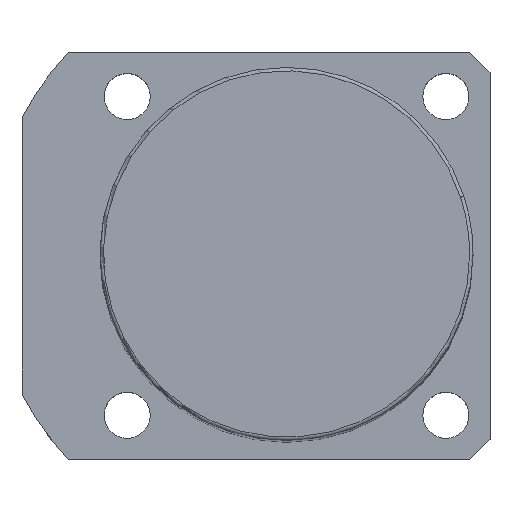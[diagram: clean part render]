
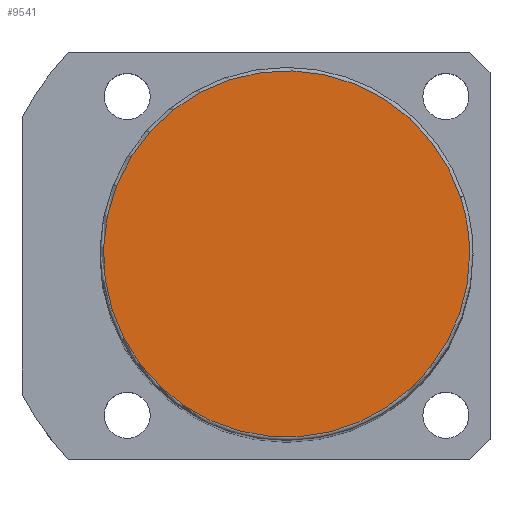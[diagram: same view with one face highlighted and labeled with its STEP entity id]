
A CAD part, top view. The second image highlights one B-rep face of the part: STEP entity #9541.
In plain terms, the highlighted planar face has unit normal (0, 0, 1).
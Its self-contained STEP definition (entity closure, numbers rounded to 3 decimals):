
#9507=CARTESIAN_POINT('',(27.0,0.0,176.0));
#9508=VERTEX_POINT('',#9507);
#9509=CARTESIAN_POINT('',(25.679,8.343,176.0));
#9510=VERTEX_POINT('',#9509);
#9511=CARTESIAN_POINT('',(0.0,0.0,176.0));
#9512=DIRECTION('',(0.0,0.0,1.0));
#9513=DIRECTION('',(1.0,0.0,0.0));
#9514=AXIS2_PLACEMENT_3D('',#9511,#9512,#9513);
#9515=CIRCLE('',#9514,27.0);
#9516=EDGE_CURVE('no 4494',#9508,#9510,#9515,.T.);
#9517=ORIENTED_EDGE('',*,*,#9516,.T.);
#9518=CARTESIAN_POINT('',(-25.679,-8.343,176.0));
#9519=VERTEX_POINT('',#9518);
#9520=CARTESIAN_POINT('',(0.0,0.0,176.0));
#9521=DIRECTION('',(0.0,0.0,1.0));
#9522=DIRECTION('',(1.0,0.0,0.0));
#9523=AXIS2_PLACEMENT_3D('',#9520,#9521,#9522);
#9524=CIRCLE('',#9523,27.0);
#9525=EDGE_CURVE('no 4500',#9510,#9519,#9524,.T.);
#9526=ORIENTED_EDGE('',*,*,#9525,.T.);
#9527=CARTESIAN_POINT('',(0.0,0.0,176.0));
#9528=DIRECTION('',(0.0,0.0,1.0));
#9529=DIRECTION('',(1.0,0.0,0.0));
#9530=AXIS2_PLACEMENT_3D('',#9527,#9528,#9529);
#9531=CIRCLE('',#9530,27.0);
#9532=EDGE_CURVE('no 4504',#9519,#9508,#9531,.T.);
#9533=ORIENTED_EDGE('',*,*,#9532,.T.);
#9534=EDGE_LOOP('',(#9517,#9526,#9533));
#9535=FACE_OUTER_BOUND('',#9534,.T.);
#9536=CARTESIAN_POINT('',(0.0,0.0,176.0));
#9537=DIRECTION('',(0.0,0.0,1.0));
#9538=DIRECTION('',(1.0,0.0,0.0));
#9539=AXIS2_PLACEMENT_3D('',#9536,#9537,#9538);
#9540=PLANE('',#9539);
#9541=ADVANCED_FACE('no 4485',(#9535),#9540,.T.);
